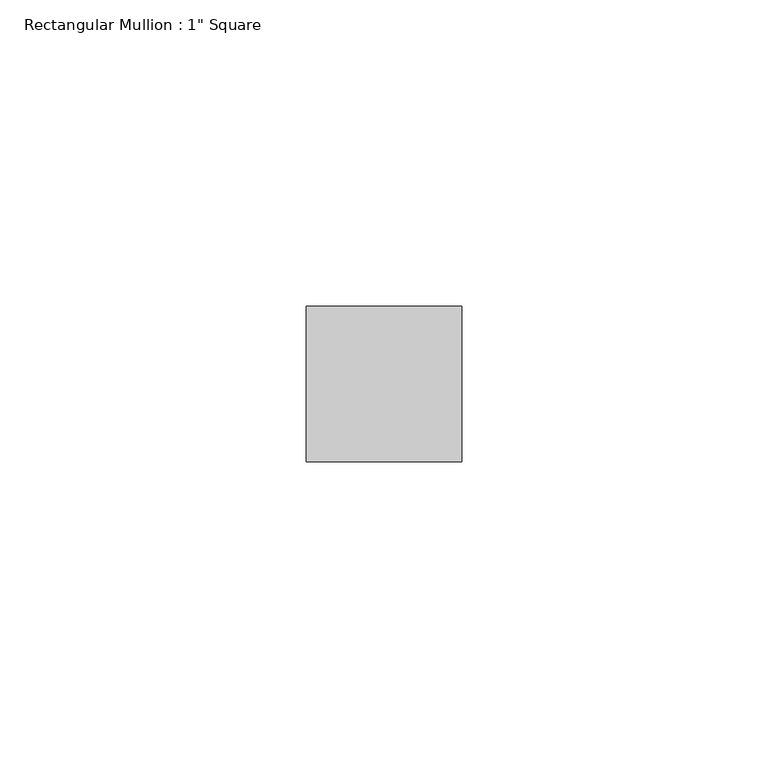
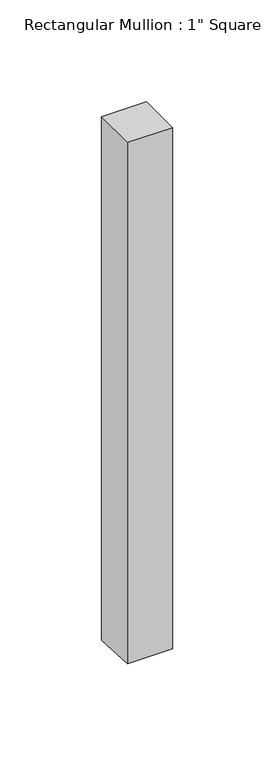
"""IFC4 building model written with IfcOpenShell, lengths in millimetres: member geometry."""

from ifc_helpers import new_model, si_unit, origin, place, context, project, spatial, faceted_brep, source, transform, mapped, element, save


def member_d896c3fe(model_context):
    return source(origin(), model_context, "Body", "Brep", [
        faceted_brep([(0.0, 12.7, 0.0), (-25.4, 12.7, 0.0), (-25.4, -12.7, 0.0), (0.0, -12.7, 0.0), (0.0, 12.7, -313.865277), (-25.4, 12.7, -313.8527501), (-25.4, -12.7, -312.3565433), (0.0, -12.7, -312.3690702)], [[[0, 1, 2, 3]], [[1, 0, 4, 5]], [[2, 1, 5, 6]], [[3, 2, 6, 7]], [[0, 3, 7, 4]], [[4, 7, 6, 5]]]),
    ])


if __name__ == "__main__":
    model = new_model("IFC4")
    model_context = context("Model", 3, world=origin())
    ifc_project = project(units=[si_unit("LENGTHUNIT", "METRE", prefix="MILLI")], contexts=[model_context])
    site = spatial("IfcSite", under=ifc_project)
    building = spatial("IfcBuilding", under=site)
    placement = place(None, origin())
    member_shape = member_d896c3fe(model_context)
    element("IfcMember", 1, ObjectType="Rectangular Mullion : 1\" Square", at=placement, inside=building, context=model_context, shape_type="MappedRepresentation", body=[
        mapped(member_shape, transform((0.0, 0.0, 0.0), x_axis=(1.0, 0.0, 0.0), y_axis=(0.0, 1.0, 0.0), z_axis=(0.0, 0.0, 1.0))),
    ])
    save(model, "model.ifc")
